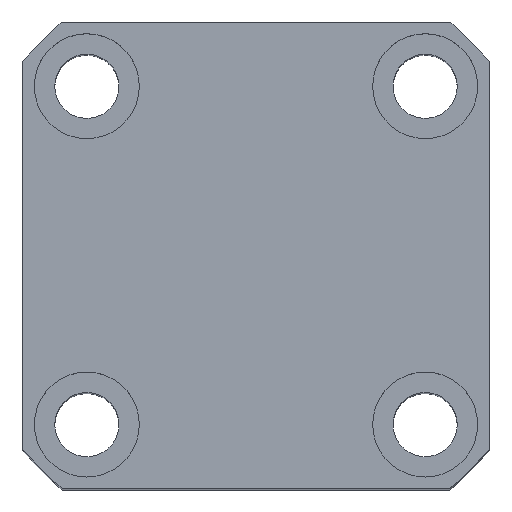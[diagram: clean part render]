
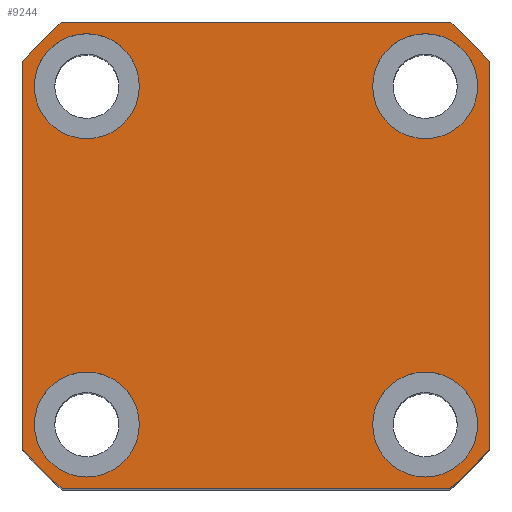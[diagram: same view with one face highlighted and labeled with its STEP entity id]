
A CAD part, top view. The second image highlights one B-rep face of the part: STEP entity #9244.
In plain terms, the highlighted planar face has unit normal (0, 0, 1).
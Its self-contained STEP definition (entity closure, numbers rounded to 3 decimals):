
#52 = EDGE_CURVE ( 'NONE', #9491, #11258, #14169, .T. ) ;
#121 = ORIENTED_EDGE ( 'NONE', *, *, #9465, .F. ) ;
#151 = ORIENTED_EDGE ( 'NONE', *, *, #13798, .T. ) ;
#320 = ORIENTED_EDGE ( 'NONE', *, *, #7158, .T. ) ;
#324 = VERTEX_POINT ( 'NONE', #8952 ) ;
#537 = PLANE ( 'NONE',  #14973 ) ;
#611 = VERTEX_POINT ( 'NONE', #15234 ) ;
#616 = ORIENTED_EDGE ( 'NONE', *, *, #17638, .F. ) ;
#645 = VECTOR ( 'NONE', #3324, 1000. ) ;
#764 = CARTESIAN_POINT ( 'NONE',  ( 29., 29., 65. ) ) ;
#1196 = CARTESIAN_POINT ( 'NONE',  ( -40., 33.226, 65. ) ) ;
#1461 = CARTESIAN_POINT ( 'NONE',  ( 0., 0., 65. ) ) ;
#1570 = FACE_BOUND ( 'NONE', #16224, .T. ) ;
#1737 = LINE ( 'NONE', #2178, #645 ) ;
#1890 = ORIENTED_EDGE ( 'NONE', *, *, #12917, .T. ) ;
#2023 = DIRECTION ( 'NONE',  ( 0., 0., 1. ) ) ;
#2042 = DIRECTION ( 'NONE',  ( 1., 0., 0. ) ) ;
#2178 = CARTESIAN_POINT ( 'NONE',  ( -33.226, -40., 65. ) ) ;
#2242 = CIRCLE ( 'NONE', #4509, 9. ) ;
#2312 = CIRCLE ( 'NONE', #12195, 9. ) ;
#2494 = CARTESIAN_POINT ( 'NONE',  ( -38., 29., 65. ) ) ;
#2546 = EDGE_CURVE ( 'NONE', #4422, #5782, #17401, .T. ) ;
#2555 = VERTEX_POINT ( 'NONE', #14106 ) ;
#2728 = DIRECTION ( 'NONE',  ( 1., 0., 0. ) ) ;
#2850 = DIRECTION ( 'NONE',  ( 0., 0., 1. ) ) ;
#2894 = ORIENTED_EDGE ( 'NONE', *, *, #52, .F. ) ;
#3082 = EDGE_LOOP ( 'NONE', ( #1890, #6580, #320, #8780, #17886, #9759, #16737, #151 ) ) ;
#3208 = EDGE_CURVE ( 'NONE', #611, #8125, #2312, .T. ) ;
#3313 = CIRCLE ( 'NONE', #11268, 52. ) ;
#3324 = DIRECTION ( 'NONE',  ( 1., 0., 0. ) ) ;
#3765 = CIRCLE ( 'NONE', #13929, 9. ) ;
#3967 = DIRECTION ( 'NONE',  ( 1., 0., 0. ) ) ;
#4003 = FACE_BOUND ( 'NONE', #7510, .T. ) ;
#4122 = EDGE_LOOP ( 'NONE', ( #7037, #6452 ) ) ;
#4169 = CARTESIAN_POINT ( 'NONE',  ( 20., 29., 65. ) ) ;
#4306 = ORIENTED_EDGE ( 'NONE', *, *, #16908, .F. ) ;
#4310 = CARTESIAN_POINT ( 'NONE',  ( 40., 33.226, 65. ) ) ;
#4351 = CARTESIAN_POINT ( 'NONE',  ( -29., 29., 65. ) ) ;
#4422 = VERTEX_POINT ( 'NONE', #9573 ) ;
#4509 = AXIS2_PLACEMENT_3D ( 'NONE', #764, #16024, #2042 ) ;
#4631 = LINE ( 'NONE', #4310, #11601 ) ;
#4651 = FACE_BOUND ( 'NONE', #4122, .T. ) ;
#4833 = CARTESIAN_POINT ( 'NONE',  ( 0., 0., 65. ) ) ;
#5030 = DIRECTION ( 'NONE',  ( 1., 0., 0. ) ) ;
#5130 = CARTESIAN_POINT ( 'NONE',  ( 20., -29., 65. ) ) ;
#5342 = DIRECTION ( 'NONE',  ( 0., 0., 1. ) ) ;
#5483 = DIRECTION ( 'NONE',  ( 1., 0., 0. ) ) ;
#5572 = EDGE_CURVE ( 'NONE', #2555, #13979, #7465, .T. ) ;
#5633 = AXIS2_PLACEMENT_3D ( 'NONE', #10667, #13566, #16309 ) ;
#5663 = CIRCLE ( 'NONE', #5633, 9. ) ;
#5718 = ORIENTED_EDGE ( 'NONE', *, *, #3208, .F. ) ;
#5782 = VERTEX_POINT ( 'NONE', #7758 ) ;
#6091 = VECTOR ( 'NONE', #17743, 1000. ) ;
#6132 = CARTESIAN_POINT ( 'NONE',  ( 38., -29., 65. ) ) ;
#6155 = CIRCLE ( 'NONE', #7771, 9. ) ;
#6342 = CARTESIAN_POINT ( 'NONE',  ( 29., 29., 65. ) ) ;
#6452 = ORIENTED_EDGE ( 'NONE', *, *, #10124, .F. ) ;
#6510 = CARTESIAN_POINT ( 'NONE',  ( 40., -33.226, 65. ) ) ;
#6533 = LINE ( 'NONE', #10946, #6091 ) ;
#6580 = ORIENTED_EDGE ( 'NONE', *, *, #13560, .T. ) ;
#6682 = CARTESIAN_POINT ( 'NONE',  ( -40., -33.226, 65. ) ) ;
#6804 = CARTESIAN_POINT ( 'NONE',  ( 0., 0., 65. ) ) ;
#6925 = AXIS2_PLACEMENT_3D ( 'NONE', #16435, #13864, #12458 ) ;
#6942 = DIRECTION ( 'NONE',  ( 1., 0., 0. ) ) ;
#7023 = VERTEX_POINT ( 'NONE', #13336 ) ;
#7037 = ORIENTED_EDGE ( 'NONE', *, *, #2546, .F. ) ;
#7158 = EDGE_CURVE ( 'NONE', #14976, #17632, #8696, .T. ) ;
#7304 = AXIS2_PLACEMENT_3D ( 'NONE', #6342, #2023, #9166 ) ;
#7465 = CIRCLE ( 'NONE', #8189, 52. ) ;
#7510 = EDGE_LOOP ( 'NONE', ( #5718, #121 ) ) ;
#7542 = VERTEX_POINT ( 'NONE', #6132 ) ;
#7697 = EDGE_LOOP ( 'NONE', ( #2894, #616 ) ) ;
#7758 = CARTESIAN_POINT ( 'NONE',  ( -38., -29., 65. ) ) ;
#7771 = AXIS2_PLACEMENT_3D ( 'NONE', #16565, #17939, #13699 ) ;
#8088 = CARTESIAN_POINT ( 'NONE',  ( -40., 33.226, 65. ) ) ;
#8125 = VERTEX_POINT ( 'NONE', #2494 ) ;
#8189 = AXIS2_PLACEMENT_3D ( 'NONE', #11091, #8450, #2728 ) ;
#8199 = CARTESIAN_POINT ( 'NONE',  ( -29., -29., 65. ) ) ;
#8216 = DIRECTION ( 'NONE',  ( 0., 0., 1. ) ) ;
#8450 = DIRECTION ( 'NONE',  ( 0., 0., 1. ) ) ;
#8534 = DIRECTION ( 'NONE',  ( 0., 0., 1. ) ) ;
#8696 = CIRCLE ( 'NONE', #12374, 52. ) ;
#8780 = ORIENTED_EDGE ( 'NONE', *, *, #14167, .T. ) ;
#8952 = CARTESIAN_POINT ( 'NONE',  ( -33.226, 40., 65. ) ) ;
#8997 = CARTESIAN_POINT ( 'NONE',  ( 0., 0., 65. ) ) ;
#9166 = DIRECTION ( 'NONE',  ( 1., 0., 0. ) ) ;
#9244 = ADVANCED_FACE ( 'NONE', ( #1570, #4651, #4003, #9458, #13638 ), #537, .T. ) ;
#9458 = FACE_BOUND ( 'NONE', #7697, .T. ) ;
#9465 = EDGE_CURVE ( 'NONE', #8125, #611, #6155, .T. ) ;
#9491 = VERTEX_POINT ( 'NONE', #9692 ) ;
#9573 = CARTESIAN_POINT ( 'NONE',  ( -20., -29., 65. ) ) ;
#9692 = CARTESIAN_POINT ( 'NONE',  ( 38., 29., 65. ) ) ;
#9759 = ORIENTED_EDGE ( 'NONE', *, *, #10746, .T. ) ;
#9914 = AXIS2_PLACEMENT_3D ( 'NONE', #11100, #13995, #5483 ) ;
#10124 = EDGE_CURVE ( 'NONE', #5782, #4422, #3765, .T. ) ;
#10242 = LINE ( 'NONE', #8088, #13569 ) ;
#10667 = CARTESIAN_POINT ( 'NONE',  ( 29., -29., 65. ) ) ;
#10746 = EDGE_CURVE ( 'NONE', #16491, #2555, #4631, .T. ) ;
#10946 = CARTESIAN_POINT ( 'NONE',  ( -33.226, 40., 65. ) ) ;
#11091 = CARTESIAN_POINT ( 'NONE',  ( 0., 0., 65. ) ) ;
#11100 = CARTESIAN_POINT ( 'NONE',  ( -29., -29., 65. ) ) ;
#11186 = DIRECTION ( 'NONE',  ( 0., 1., 0. ) ) ;
#11258 = VERTEX_POINT ( 'NONE', #4169 ) ;
#11268 = AXIS2_PLACEMENT_3D ( 'NONE', #6804, #8216, #3967 ) ;
#11353 = DIRECTION ( 'NONE',  ( 1., 0., 0. ) ) ;
#11601 = VECTOR ( 'NONE', #11186, 1000. ) ;
#11648 = DIRECTION ( 'NONE',  ( 0., 0., 1. ) ) ;
#11837 = AXIS2_PLACEMENT_3D ( 'NONE', #1461, #2850, #6942 ) ;
#12195 = AXIS2_PLACEMENT_3D ( 'NONE', #4351, #8534, #11353 ) ;
#12374 = AXIS2_PLACEMENT_3D ( 'NONE', #4833, #14753, #5030 ) ;
#12458 = DIRECTION ( 'NONE',  ( 1., 0., 0. ) ) ;
#12917 = EDGE_CURVE ( 'NONE', #324, #13736, #15114, .T. ) ;
#13336 = CARTESIAN_POINT ( 'NONE',  ( 33.226, -40., 65. ) ) ;
#13411 = EDGE_CURVE ( 'NONE', #7542, #16508, #5663, .T. ) ;
#13560 = EDGE_CURVE ( 'NONE', #13736, #14976, #10242, .T. ) ;
#13566 = DIRECTION ( 'NONE',  ( 0., 0., 1. ) ) ;
#13569 = VECTOR ( 'NONE', #15673, 1000. ) ;
#13638 = FACE_OUTER_BOUND ( 'NONE', #3082, .T. ) ;
#13699 = DIRECTION ( 'NONE',  ( 1., 0., 0. ) ) ;
#13736 = VERTEX_POINT ( 'NONE', #1196 ) ;
#13798 = EDGE_CURVE ( 'NONE', #13979, #324, #6533, .T. ) ;
#13864 = DIRECTION ( 'NONE',  ( 0., 0., 1. ) ) ;
#13929 = AXIS2_PLACEMENT_3D ( 'NONE', #8199, #5342, #18045 ) ;
#13979 = VERTEX_POINT ( 'NONE', #18035 ) ;
#13995 = DIRECTION ( 'NONE',  ( 0., 0., 1. ) ) ;
#14069 = CIRCLE ( 'NONE', #6925, 9. ) ;
#14106 = CARTESIAN_POINT ( 'NONE',  ( 40., 33.226, 65. ) ) ;
#14167 = EDGE_CURVE ( 'NONE', #17632, #7023, #1737, .T. ) ;
#14169 = CIRCLE ( 'NONE', #7304, 9. ) ;
#14753 = DIRECTION ( 'NONE',  ( 0., 0., 1. ) ) ;
#14973 = AXIS2_PLACEMENT_3D ( 'NONE', #8997, #11648, #15981 ) ;
#14976 = VERTEX_POINT ( 'NONE', #6682 ) ;
#15114 = CIRCLE ( 'NONE', #11837, 52. ) ;
#15234 = CARTESIAN_POINT ( 'NONE',  ( -20., 29., 65. ) ) ;
#15673 = DIRECTION ( 'NONE',  ( 0., -1., 0. ) ) ;
#15981 = DIRECTION ( 'NONE',  ( 1., 0., 0. ) ) ;
#16024 = DIRECTION ( 'NONE',  ( 0., 0., 1. ) ) ;
#16217 = ORIENTED_EDGE ( 'NONE', *, *, #13411, .F. ) ;
#16224 = EDGE_LOOP ( 'NONE', ( #16217, #4306 ) ) ;
#16309 = DIRECTION ( 'NONE',  ( 1., 0., 0. ) ) ;
#16435 = CARTESIAN_POINT ( 'NONE',  ( 29., -29., 65. ) ) ;
#16491 = VERTEX_POINT ( 'NONE', #6510 ) ;
#16508 = VERTEX_POINT ( 'NONE', #5130 ) ;
#16565 = CARTESIAN_POINT ( 'NONE',  ( -29., 29., 65. ) ) ;
#16737 = ORIENTED_EDGE ( 'NONE', *, *, #5572, .T. ) ;
#16908 = EDGE_CURVE ( 'NONE', #16508, #7542, #14069, .T. ) ;
#16964 = EDGE_CURVE ( 'NONE', #7023, #16491, #3313, .T. ) ;
#17162 = CARTESIAN_POINT ( 'NONE',  ( -33.226, -40., 65. ) ) ;
#17401 = CIRCLE ( 'NONE', #9914, 9. ) ;
#17632 = VERTEX_POINT ( 'NONE', #17162 ) ;
#17638 = EDGE_CURVE ( 'NONE', #11258, #9491, #2242, .T. ) ;
#17743 = DIRECTION ( 'NONE',  ( -1., 0., 0. ) ) ;
#17886 = ORIENTED_EDGE ( 'NONE', *, *, #16964, .T. ) ;
#17939 = DIRECTION ( 'NONE',  ( 0., 0., 1. ) ) ;
#18035 = CARTESIAN_POINT ( 'NONE',  ( 33.226, 40., 65. ) ) ;
#18045 = DIRECTION ( 'NONE',  ( 1., 0., 0. ) ) ;
